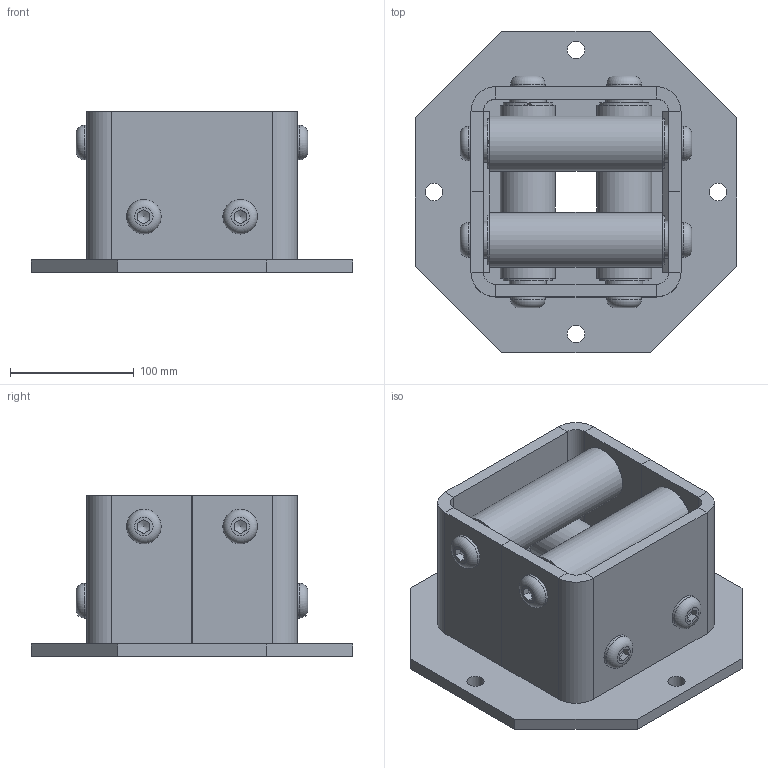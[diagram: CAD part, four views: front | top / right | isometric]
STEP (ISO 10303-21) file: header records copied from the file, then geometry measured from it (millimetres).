
FILE_DESCRIPTION(/* description */ ('Seilkreuz VSK 04 G'),/* implementation_level */ '2;1');
FILE_NAME(/* name */ 'Z:\Workspace\03 Seilrollen\1.510 Seilkreuz VA\1.510.04 Seilkreuz VA VSK 04 G\1.510.04 Seilkreuz VSK 04 G.stp',/* time_stamp */ '2021-11-04T10:05:41+01:00',/* author */ ('cad-user'),/* organization */ (''),/* preprocessor_version */ 'ST-DEVELOPER v18',/* originating_system */ 'Autodesk Inventor 2020',/* authorisation */ '');
FILE_SCHEMA (('AUTOMOTIVE_DESIGN { 1 0 10303 214 3 1 1 }'));
Length unit declared in the file: millimetre
Products named in the file (10): 1.510.04 Seilkreuz VSK 04 G; 1.510.04.01 Konsole Schweißteil; 1.510.04.01 Konsole Schweißteil_1; 1.510.04.02 Platte; 1.510.04.03 U-Blech; 1.510.04.03 U-Blech_1; 1.412.04.04 Rohr ø44,5 x 6,3; MBZ-B09; 1.412.04.05 Achse; ISO 7380 - M16 x 40
Assembly tree (29 placements, depth 3):
  1.510.04 Seilkreuz VSK 04 G
    1.510.04.01 Konsole Schweißteil
      1.510.04.01 Konsole Schweißteil_1
      1.510.04.02 Platte
      1.510.04.03 U-Blech
      1.510.04.03 U-Blech_1
    1.412.04.04 Rohr ø44,5 x 6,3  x4
    MBZ-B09  x8
    1.412.04.05 Achse  x4
    ISO 7380 - M16 x 40  x8
Bounding box: 260 x 260 x 130 mm (x, y, z)
Volume: 2098447.4 mm3; surface area: 600266 mm2
Topology: 29 solids, 29 shells, 345 faces, 837 edges, 550 vertices
Faces by surface type: plane 192, cylinder 89, torus 40, cone 24
Full cylindrical faces by diameter (mm): 13.835 x8, 14 x4, 16 x8, 18 x8, 28 x8, 30 x12, 31.9 x4, 34 x8, 44.5 x4, 120 x1
Entity records: 3952 total; most frequent: DIRECTION 670, CARTESIAN_POINT 653, ORIENTED_EDGE 542, EDGE_CURVE 271, AXIS2_PLACEMENT_3D 253, VERTEX_POINT 175, LINE 164, VECTOR 164
